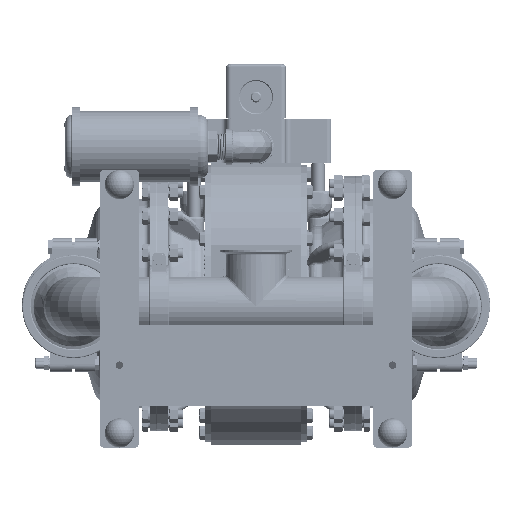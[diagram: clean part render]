
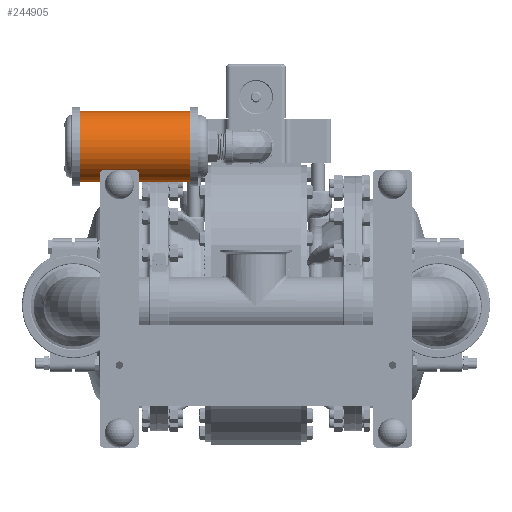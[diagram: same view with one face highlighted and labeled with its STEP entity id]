
A CAD part, front view. The second image highlights one B-rep face of the part: STEP entity #244905.
In plain terms, the highlighted cylindrical face has radius 45.339 mm (diameter 90.678 mm), a partial arc.
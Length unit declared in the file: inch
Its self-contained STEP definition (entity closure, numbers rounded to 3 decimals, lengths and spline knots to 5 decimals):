
#3004 = CARTESIAN_POINT ( 'NONE',  ( -8.84, -5.33, 6.115 ) ) ;
#4093 = VERTEX_POINT ( 'NONE', #290378 ) ;
#6293 = VERTEX_POINT ( 'NONE', #3004 ) ;
#11300 = EDGE_CURVE ( 'NONE', #257573, #6293, #105914, .T. ) ;
#28977 = CARTESIAN_POINT ( 'NONE',  ( -3.34, -5.33, 9.685 ) ) ;
#30515 = CARTESIAN_POINT ( 'NONE',  ( -9.949, -5.33, 7.9 ) ) ;
#42034 = CARTESIAN_POINT ( 'NONE',  ( -3.34, -5.33, 7.9 ) ) ;
#55231 = CIRCLE ( 'NONE', #284897, 1.785 ) ;
#57334 = CARTESIAN_POINT ( 'NONE',  ( -3.34, -5.33, 6.115 ) ) ;
#57791 = AXIS2_PLACEMENT_3D ( 'NONE', #42034, #144048, #123896 ) ;
#69515 = ORIENTED_EDGE ( 'NONE', *, *, #135963, .T. ) ;
#73787 = CIRCLE ( 'NONE', #57791, 1.785 ) ;
#80677 = CYLINDRICAL_SURFACE ( 'NONE', #296022, 1.785 ) ;
#100284 = DIRECTION ( 'NONE',  ( 1., 0., 0. ) ) ;
#103477 = VECTOR ( 'NONE', #172927, 39.37008 ) ;
#105672 = ORIENTED_EDGE ( 'NONE', *, *, #11300, .F. ) ;
#105914 = LINE ( 'NONE', #57334, #128633 ) ;
#123896 = DIRECTION ( 'NONE',  ( 0., 0., 1. ) ) ;
#125138 = VERTEX_POINT ( 'NONE', #28977 ) ;
#128633 = VECTOR ( 'NONE', #311536, 39.37008 ) ;
#135963 = EDGE_CURVE ( 'NONE', #125138, #4093, #224800, .T. ) ;
#144048 = DIRECTION ( 'NONE',  ( 1., 0., 0. ) ) ;
#172927 = DIRECTION ( 'NONE',  ( -1., 0., 0. ) ) ;
#182656 = DIRECTION ( 'NONE',  ( 1., 0., 0. ) ) ;
#183452 = EDGE_LOOP ( 'NONE', ( #240719, #105672, #265257, #69515 ) ) ;
#207814 = FACE_OUTER_BOUND ( 'NONE', #183452, .T. ) ;
#215866 = EDGE_CURVE ( 'NONE', #4093, #6293, #55231, .T. ) ;
#224800 = LINE ( 'NONE', #248243, #103477 ) ;
#227411 = CARTESIAN_POINT ( 'NONE',  ( -8.84, -5.33, 7.9 ) ) ;
#229075 = DIRECTION ( 'NONE',  ( 0., 0., 1. ) ) ;
#229338 = CARTESIAN_POINT ( 'NONE',  ( -3.34, -5.33, 6.115 ) ) ;
#240719 = ORIENTED_EDGE ( 'NONE', *, *, #215866, .T. ) ;
#244905 = ADVANCED_FACE ( 'NONE', ( #207814 ), #80677, .T. ) ;
#248243 = CARTESIAN_POINT ( 'NONE',  ( -3.34, -5.33, 9.685 ) ) ;
#257573 = VERTEX_POINT ( 'NONE', #229338 ) ;
#265257 = ORIENTED_EDGE ( 'NONE', *, *, #300754, .F. ) ;
#284897 = AXIS2_PLACEMENT_3D ( 'NONE', #227411, #100284, #229075 ) ;
#290378 = CARTESIAN_POINT ( 'NONE',  ( -8.84, -5.33, 9.685 ) ) ;
#296022 = AXIS2_PLACEMENT_3D ( 'NONE', #30515, #182656, #311427 ) ;
#300754 = EDGE_CURVE ( 'NONE', #125138, #257573, #73787, .T. ) ;
#311427 = DIRECTION ( 'NONE',  ( 0., 0., -1. ) ) ;
#311536 = DIRECTION ( 'NONE',  ( -1., 0., 0. ) ) ;
